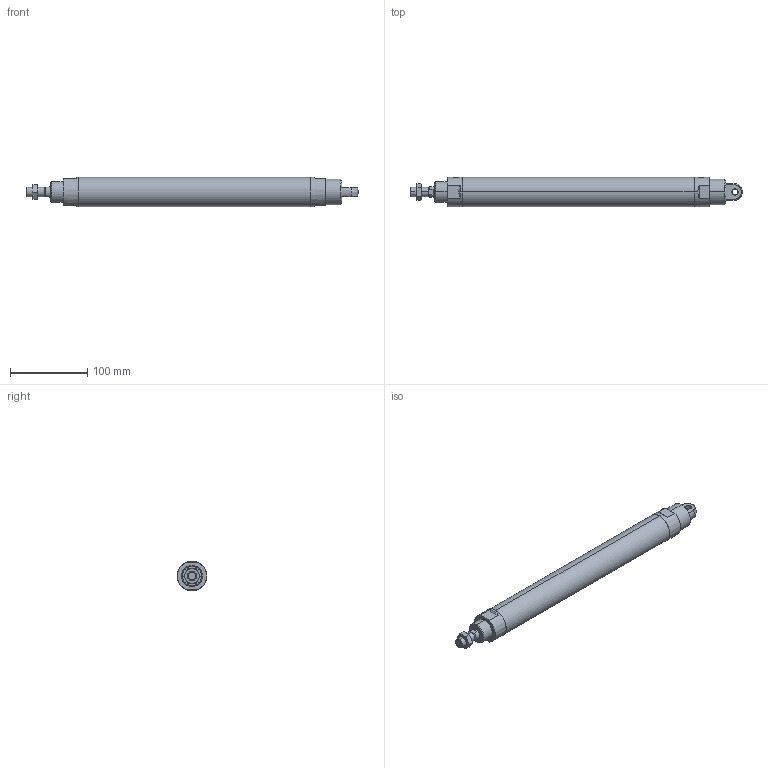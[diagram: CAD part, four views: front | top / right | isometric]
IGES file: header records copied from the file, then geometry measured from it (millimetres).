
Start section: SolidWorks IGES file using analytic representation for surfaces
Global section: file name: C:\Users\Toshiba\Desktop\J#2-32-250-C.IGS; native system: SolidWorks 2014; preprocessor: SolidWorks 2014; author: Toshiba; date: 160308.154932; units: millimetre
Bounding box: 429 x 38 x 38 mm (x, y, z)
Surface area: 50602 mm2 (no closed solid volume)
Topology: 0 solids, 0 shells, 81 faces, 1552 edges, 1548 vertices
Faces by surface type: bspline 42, revolution 39
